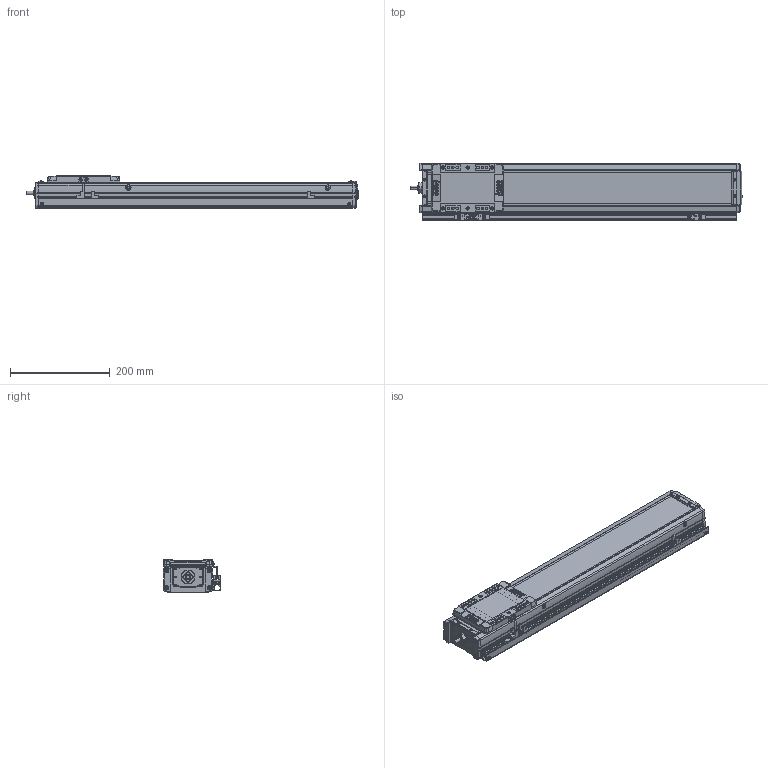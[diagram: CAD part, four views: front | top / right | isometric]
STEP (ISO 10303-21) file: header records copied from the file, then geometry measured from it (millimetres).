
FILE_DESCRIPTION(('STEP AP214'),'1');
FILE_NAME('Z:/Web/3D/SAN100/SAN100 양산용 (STEP)/SAN100ㅁㅁ-450+3SR.stp','2013-04-26T00:05:19',(' '),(' '),'Spatial InterOp 3D',' ',' ');
FILE_SCHEMA(('automotive_design'));
Length unit declared in the file: millimetre
Products named in the file (52): EE-SX674; SBK-SX674-352; 스크루 : Round - M3.0 x 6.0; M3.0 x 6.0; SRL-16x17-380L; SGD-SAN100; SUS COVER; SFX-SAN100; RRCV-SAN100; 스크루 : Round - M4.0 x 10.0; FRBL-SAN100; SLBL-SAN100; SLCV-SAN100; 스크루 : Countersunk - M3.0 x 6.0; BASE; 스크루 : Round - M5.0 x 6.0; 너트 : Square - M10.0 x 220.7419; RR1500-000L; FRCV-SAN100
Bounding box: 666 x 116 x 66 mm (x, y, z)
Volume: 1870551.1 mm3; surface area: 538433.5 mm2
Topology: 52 solids, 53 shells, 2451 faces, 6378 edges, 4127 vertices
Faces by surface type: plane 1322, cylinder 813, cone 214, sphere 64, torus 26, bspline 12
Entity records: 96577 total; most frequent: CARTESIAN_POINT 14426, DIRECTION 13389, ORIENTED_EDGE 12592, EDGE_CURVE 6296, AXIS2_PLACEMENT_3D 4727, VERTEX_POINT 4127, LINE 3935, VECTOR 3935
